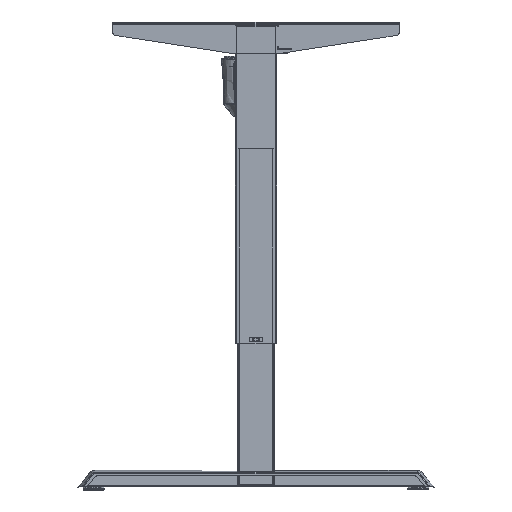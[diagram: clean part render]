
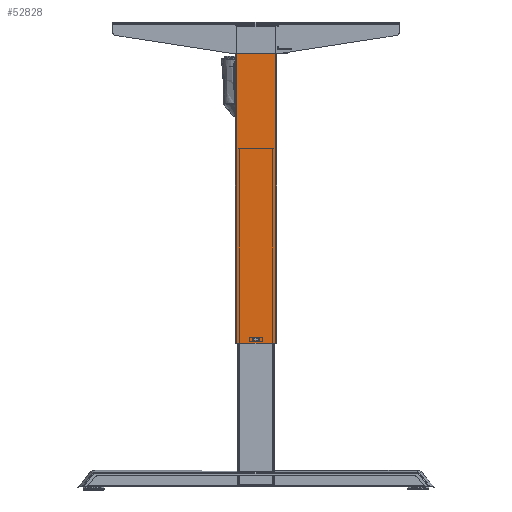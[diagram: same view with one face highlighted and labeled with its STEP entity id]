
A CAD part, left-side view. The second image highlights one B-rep face of the part: STEP entity #52828.
In plain terms, the highlighted planar face has unit normal (-1, 0, 0).
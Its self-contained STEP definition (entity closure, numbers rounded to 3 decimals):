
#44 = EDGE_CURVE ( 'NONE', #45734, #23536, #49015, .T. ) ;
#412 = LINE ( 'NONE', #33899, #18928 ) ;
#1246 = CARTESIAN_POINT ( 'NONE',  ( -30., -6., 10. ) ) ;
#1591 = LINE ( 'NONE', #23764, #58793 ) ;
#2463 = VERTEX_POINT ( 'NONE', #18572 ) ;
#8434 = CARTESIAN_POINT ( 'NONE',  ( -30., -37., 0. ) ) ;
#9298 = EDGE_CURVE ( 'NONE', #71195, #65052, #1591, .T. ) ;
#11967 = DIRECTION ( 'NONE',  ( 0., 0., 1. ) ) ;
#12003 = EDGE_LOOP ( 'NONE', ( #62714, #54063, #20073, #69722 ) ) ;
#12629 = CARTESIAN_POINT ( 'NONE',  ( -30., -6., 10. ) ) ;
#12729 = DIRECTION ( 'NONE',  ( 0., 1., 0. ) ) ;
#12950 = VERTEX_POINT ( 'NONE', #43371 ) ;
#14363 = FACE_BOUND ( 'NONE', #34020, .T. ) ;
#15623 = DIRECTION ( 'NONE',  ( 0., -1., 0. ) ) ;
#17351 = DIRECTION ( 'NONE',  ( 0., 1., 0. ) ) ;
#17438 = LINE ( 'NONE', #23282, #34990 ) ;
#18572 = CARTESIAN_POINT ( 'NONE',  ( -30., 6., 10. ) ) ;
#18928 = VECTOR ( 'NONE', #23093, 1000. ) ;
#20073 = ORIENTED_EDGE ( 'NONE', *, *, #71061, .T. ) ;
#20215 = CARTESIAN_POINT ( 'NONE',  ( -30., -37., 609. ) ) ;
#20378 = CARTESIAN_POINT ( 'NONE',  ( -30., -6., 6. ) ) ;
#20499 = VECTOR ( 'NONE', #32006, 1000. ) ;
#21529 = EDGE_CURVE ( 'NONE', #23536, #2463, #17438, .T. ) ;
#23093 = DIRECTION ( 'NONE',  ( 0., 0., -1. ) ) ;
#23282 = CARTESIAN_POINT ( 'NONE',  ( -30., 6., 10. ) ) ;
#23536 = VERTEX_POINT ( 'NONE', #23732 ) ;
#23732 = CARTESIAN_POINT ( 'NONE',  ( -30., 6., 6. ) ) ;
#23764 = CARTESIAN_POINT ( 'NONE',  ( -30., 37., 0. ) ) ;
#24511 = LINE ( 'NONE', #1246, #67683 ) ;
#32006 = DIRECTION ( 'NONE',  ( 0., 0., -1. ) ) ;
#32160 = AXIS2_PLACEMENT_3D ( 'NONE', #47124, #41229, #12729 ) ;
#33899 = CARTESIAN_POINT ( 'NONE',  ( -30., 37., 614. ) ) ;
#34020 = EDGE_LOOP ( 'NONE', ( #63254, #71379, #53311, #40488 ) ) ;
#34990 = VECTOR ( 'NONE', #11967, 1000. ) ;
#35453 = CARTESIAN_POINT ( 'NONE',  ( -30., -37., 614. ) ) ;
#35997 = EDGE_CURVE ( 'NONE', #39877, #45734, #24511, .T. ) ;
#38727 = CARTESIAN_POINT ( 'NONE',  ( -30., 6., 10. ) ) ;
#38938 = LINE ( 'NONE', #35453, #20499 ) ;
#39877 = VERTEX_POINT ( 'NONE', #12629 ) ;
#40488 = ORIENTED_EDGE ( 'NONE', *, *, #44, .T. ) ;
#40609 = DIRECTION ( 'NONE',  ( 0., 0., -1. ) ) ;
#40746 = LINE ( 'NONE', #38727, #69779 ) ;
#41229 = DIRECTION ( 'NONE',  ( 1., 0., 0. ) ) ;
#43371 = CARTESIAN_POINT ( 'NONE',  ( -30., 37., 609. ) ) ;
#44627 = CARTESIAN_POINT ( 'NONE',  ( -30., 6., 6. ) ) ;
#45734 = VERTEX_POINT ( 'NONE', #20378 ) ;
#46141 = PLANE ( 'NONE',  #32160 ) ;
#47124 = CARTESIAN_POINT ( 'NONE',  ( -30., 37., 614. ) ) ;
#49015 = LINE ( 'NONE', #44627, #70098 ) ;
#49612 = FACE_OUTER_BOUND ( 'NONE', #12003, .T. ) ;
#52534 = CARTESIAN_POINT ( 'NONE',  ( -30., 37., 0. ) ) ;
#52612 = LINE ( 'NONE', #66798, #70230 ) ;
#52828 = ADVANCED_FACE ( 'NONE', ( #14363, #49612 ), #46141, .F. ) ;
#53311 = ORIENTED_EDGE ( 'NONE', *, *, #35997, .T. ) ;
#54063 = ORIENTED_EDGE ( 'NONE', *, *, #57520, .F. ) ;
#57520 = EDGE_CURVE ( 'NONE', #12950, #61294, #52612, .T. ) ;
#58793 = VECTOR ( 'NONE', #67605, 1000. ) ;
#58888 = EDGE_CURVE ( 'NONE', #2463, #39877, #40746, .T. ) ;
#61294 = VERTEX_POINT ( 'NONE', #20215 ) ;
#62714 = ORIENTED_EDGE ( 'NONE', *, *, #72755, .F. ) ;
#63254 = ORIENTED_EDGE ( 'NONE', *, *, #21529, .T. ) ;
#64862 = DIRECTION ( 'NONE',  ( 0., -1., 0. ) ) ;
#65052 = VERTEX_POINT ( 'NONE', #8434 ) ;
#66798 = CARTESIAN_POINT ( 'NONE',  ( -30., 40., 609. ) ) ;
#67605 = DIRECTION ( 'NONE',  ( 0., -1., 0. ) ) ;
#67683 = VECTOR ( 'NONE', #40609, 1000. ) ;
#69722 = ORIENTED_EDGE ( 'NONE', *, *, #9298, .T. ) ;
#69779 = VECTOR ( 'NONE', #64862, 1000. ) ;
#70098 = VECTOR ( 'NONE', #17351, 1000. ) ;
#70230 = VECTOR ( 'NONE', #15623, 1000. ) ;
#71061 = EDGE_CURVE ( 'NONE', #12950, #71195, #412, .T. ) ;
#71195 = VERTEX_POINT ( 'NONE', #52534 ) ;
#71379 = ORIENTED_EDGE ( 'NONE', *, *, #58888, .T. ) ;
#72755 = EDGE_CURVE ( 'NONE', #61294, #65052, #38938, .T. ) ;
